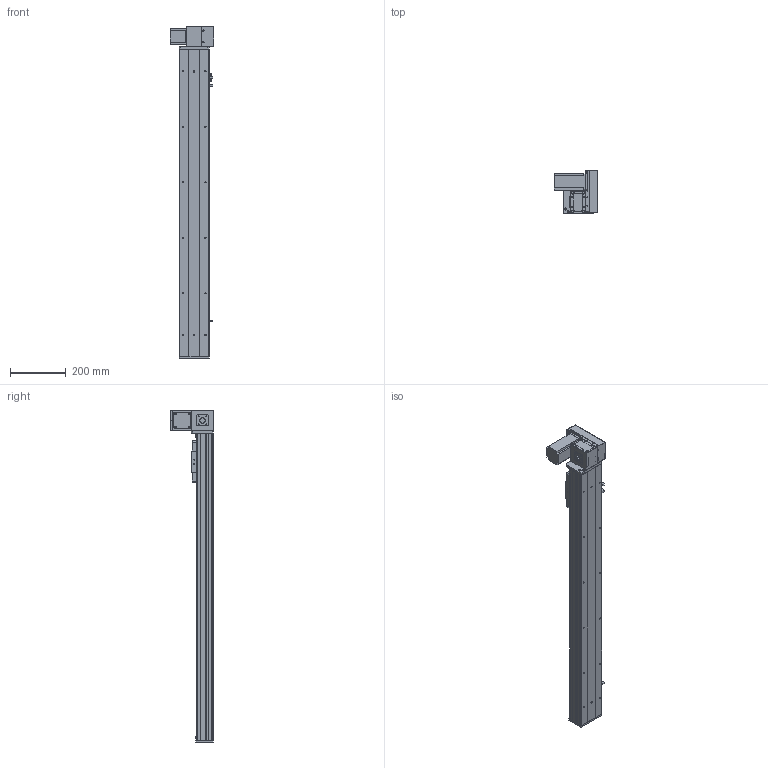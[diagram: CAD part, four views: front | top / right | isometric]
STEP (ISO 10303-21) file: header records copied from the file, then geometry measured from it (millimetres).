
FILE_DESCRIPTION (( 'STEP AP203' ), '1' );
FILE_NAME ('Y10CB-D90-S850-UR-P400W.STEP', '2020-02-16T03:28:28', ( '微软用户' ), ( '微软中国' ), 'SwSTEP 2.0', 'SolidWorks 2017', '' );
FILE_SCHEMA (( 'CONFIG_CONTROL_DESIGN' ));
Length unit declared in the file: millimetre
Products named in the file (18): 10CB-耜裔; 0B-萇儂楊擘啣; Y135C-陔俋离換覜結え-; san松下电机400不带刹车----; Y100-135俋离換覜ん--; 0B-源倛裔啣; Y10B--々湍喘謫眊--666; 0B-埴倛裔啣; Y10B-耜蚾蟀諉啣----; 10CB-詩湍-; 00B-俋欶BM--; Y10CB- 掛极耜裔啣-毀---; 0CB-雄赽釱---; Y10CB-D90-S850-UR-P400W; Y10C---詩湍揤啣; 0Cb-俋欶---; 10CB9-掛极; Y10B-々湍喘謫眊楊擘啣--
Assembly tree (21 placements, depth 2):
  Y10CB-D90-S850-UR-P400W
    0CB-雄赽釱---
    0Cb-俋欶---
    Y10B-々湍喘謫眊楊擘啣--
    0B-萇儂楊擘啣
    san松下电机400不带刹车----
    0B-源倛裔啣
    0B-埴倛裔啣
    10CB-詩湍-
    Y10CB- 掛极耜裔啣-毀---  x2
    Y10C---詩湍揤啣  x2
    10CB9-掛极
    10CB-耜裔
    Y135C-陔俋离換覜結え-
    Y100-135俋离換覜ん--  x3
    Y10B--々湍喘謫眊--666
    Y10B-耜蚾蟀諉啣----
    00B-俋欶BM--
Bounding box: 157 x 155.5 x 1196 mm (x, y, z)
Volume: 2874222.7 mm3; surface area: 1279450.4 mm2
Topology: 21 solids, 21 shells, 978 faces, 2603 edges, 1706 vertices
Faces by surface type: cylinder 479, plane 475, cone 24
Entity records: 30412 total; most frequent: CARTESIAN_POINT 5321, DIRECTION 4930, ORIENTED_EDGE 4676, EDGE_CURVE 2338, AXIS2_PLACEMENT_3D 1765, VERTEX_POINT 1532, VECTOR 1400, LINE 1400
